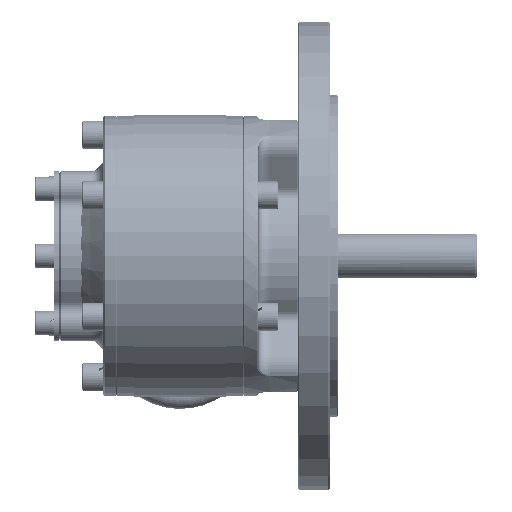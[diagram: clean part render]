
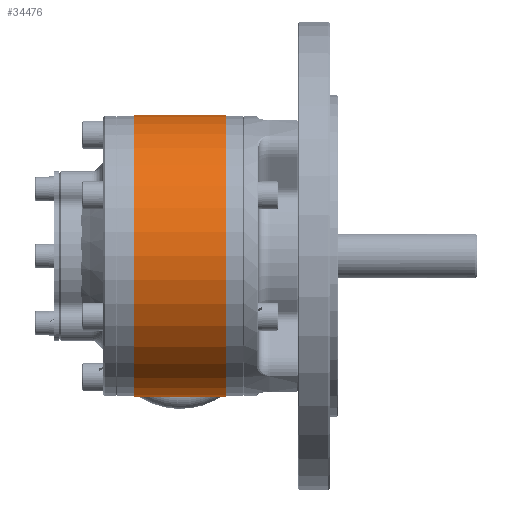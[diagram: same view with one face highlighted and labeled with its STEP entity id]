
A CAD part, front view. The second image highlights one B-rep face of the part: STEP entity #34476.
In plain terms, the highlighted cylindrical face has radius 50 mm (diameter 100 mm), a partial arc.
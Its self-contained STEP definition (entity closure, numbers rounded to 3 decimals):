
#5446 = CARTESIAN_POINT ( 'NONE',  ( -16.25, 0., 50. ) ) ;
#10143 = CARTESIAN_POINT ( 'NONE',  ( 16.25, 0., -50. ) ) ;
#10481 = CARTESIAN_POINT ( 'NONE',  ( -20.015, 0., -50. ) ) ;
#15956 = DIRECTION ( 'NONE',  ( 0., 0., 1. ) ) ;
#21622 = ORIENTED_EDGE ( 'NONE', *, *, #220995, .F. ) ;
#22931 = EDGE_CURVE ( 'NONE', #211650, #150636, #110324, .T. ) ;
#34476 = ADVANCED_FACE ( 'NONE', ( #161060 ), #76591, .T. ) ;
#36574 = CARTESIAN_POINT ( 'NONE',  ( -20.015, 0., 50. ) ) ;
#38327 = VECTOR ( 'NONE', #71031, 1000. ) ;
#38448 = DIRECTION ( 'NONE',  ( -1., 0., 0. ) ) ;
#53885 = DIRECTION ( 'NONE',  ( -1., 0., 0. ) ) ;
#71031 = DIRECTION ( 'NONE',  ( -1., 0., 0. ) ) ;
#76591 = CYLINDRICAL_SURFACE ( 'NONE', #191724, 50. ) ;
#95919 = LINE ( 'NONE', #10481, #38327 ) ;
#97912 = CARTESIAN_POINT ( 'NONE',  ( 16.25, 0., 0. ) ) ;
#110324 = CIRCLE ( 'NONE', #122763, 50. ) ;
#115229 = CARTESIAN_POINT ( 'NONE',  ( -20.015, 0., 0. ) ) ;
#116874 = EDGE_CURVE ( 'NONE', #125434, #150636, #194454, .T. ) ;
#120770 = DIRECTION ( 'NONE',  ( 1., 0., 0. ) ) ;
#122763 = AXIS2_PLACEMENT_3D ( 'NONE', #171009, #53885, #15956 ) ;
#125434 = VERTEX_POINT ( 'NONE', #183065 ) ;
#127261 = VERTEX_POINT ( 'NONE', #10143 ) ;
#140121 = DIRECTION ( 'NONE',  ( 0., 0., -1. ) ) ;
#149499 = EDGE_LOOP ( 'NONE', ( #21622, #193781, #152245, #225261 ) ) ;
#150636 = VERTEX_POINT ( 'NONE', #5446 ) ;
#152245 = ORIENTED_EDGE ( 'NONE', *, *, #116874, .T. ) ;
#161060 = FACE_OUTER_BOUND ( 'NONE', #149499, .T. ) ;
#171009 = CARTESIAN_POINT ( 'NONE',  ( -16.25, 0., 0. ) ) ;
#173900 = CIRCLE ( 'NONE', #239710, 50. ) ;
#183065 = CARTESIAN_POINT ( 'NONE',  ( 16.25, 0., 50. ) ) ;
#188426 = VECTOR ( 'NONE', #190947, 1000. ) ;
#190947 = DIRECTION ( 'NONE',  ( -1., 0., 0. ) ) ;
#191724 = AXIS2_PLACEMENT_3D ( 'NONE', #115229, #38448, #208090 ) ;
#193781 = ORIENTED_EDGE ( 'NONE', *, *, #231030, .F. ) ;
#194454 = LINE ( 'NONE', #36574, #188426 ) ;
#208090 = DIRECTION ( 'NONE',  ( 0., 0., 1. ) ) ;
#211063 = CARTESIAN_POINT ( 'NONE',  ( -16.25, 0., -50. ) ) ;
#211650 = VERTEX_POINT ( 'NONE', #211063 ) ;
#220995 = EDGE_CURVE ( 'NONE', #127261, #211650, #95919, .T. ) ;
#225261 = ORIENTED_EDGE ( 'NONE', *, *, #22931, .F. ) ;
#231030 = EDGE_CURVE ( 'NONE', #125434, #127261, #173900, .T. ) ;
#239710 = AXIS2_PLACEMENT_3D ( 'NONE', #97912, #120770, #140121 ) ;
